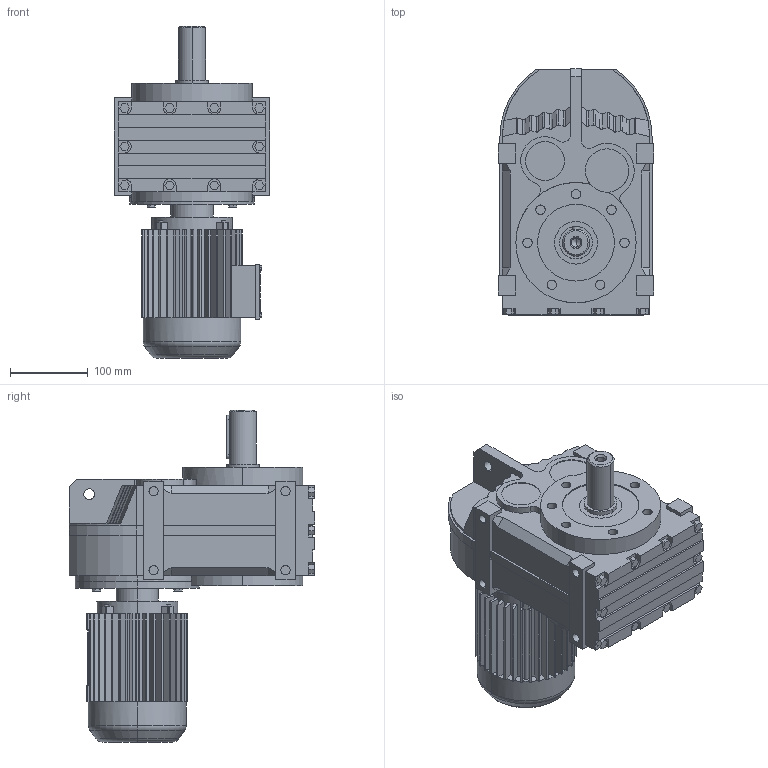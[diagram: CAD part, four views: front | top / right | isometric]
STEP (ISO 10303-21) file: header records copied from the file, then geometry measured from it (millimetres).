
FILE_DESCRIPTION(('Open CASCADE Model'),'2;1');
FILE_NAME('Open CASCADE Shape Model','2021-07-14T17:12:57',('Author'),( 'Open CASCADE'),'Open CASCADE STEP processor 6.3','Open CASCADE 6.3' ,'Unknown');
FILE_SCHEMA(('AUTOMOTIVE_DESIGN_CC2 { 1 2 10303 214 -1 1 5 4 }'));
Length unit declared in the file: millimetre
Products named in the file (4): 1_F57-Y63S; FA27‵157_57.step; 萇儂_160_Y63S.step; す瑩妗陑粣F_57.step
Assembly tree (3 placements, depth 2):
  1_F57-Y63S
    FA27‵157_57.step
    萇儂_160_Y63S.step
    す瑩妗陑粣F_57.step
Bounding box: 200 x 317 x 428 mm (x, y, z)
Volume: 9457970.6 mm3; surface area: 573518.4 mm2
Topology: 3 solids, 3 shells, 791 faces, 2092 edges, 1358 vertices
Faces by surface type: plane 566, cylinder 197, bspline 16, cone 8, torus 4
Entity records: 53465 total; most frequent: CARTESIAN_POINT 13382, DIRECTION 7007, ORIENTED_EDGE 4180, PCURVE 4180, DEFINITIONAL_REPRESENTATION 4180, LINE 3943, VECTOR 3943, EDGE_CURVE 2090
